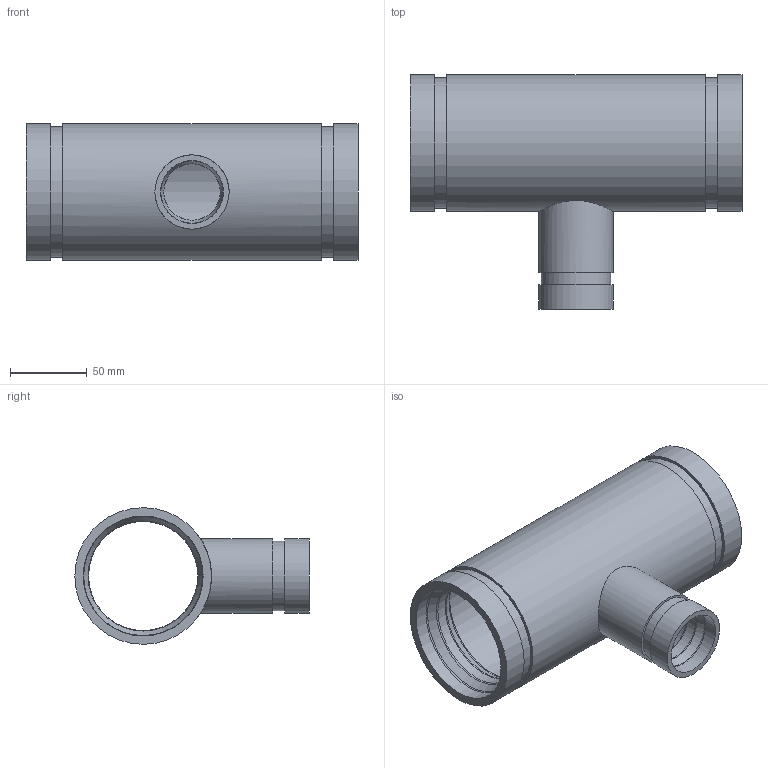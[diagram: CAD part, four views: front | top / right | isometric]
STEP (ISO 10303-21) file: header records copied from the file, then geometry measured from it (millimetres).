
FILE_DESCRIPTION(/* description */ ('VIC REDUCING TEE No 425H-SS','CAx-IF Rec.Pracs.---Representation and Presentation of Product Manufacturing Information (PMI)---4.0---2014-10-13'),/* implementation_level */ '2;1');
FILE_NAME(/* name */ 'C:\Users\kkamble\AppData\Roaming\Autodesk\ApplicationPlugins\Back Up\Victaulic_SS-OGS_Tee Reducing_Sched 40S_No 425H SS (OGS)\Victaulic_SS-OGS_Tee Reducing_Sched 40S_No 425H SS (OGS)_03.0x01.5 (80x40).stp',/* time_stamp */ '2020-08-27T17:19:40+06:00',/* author */ ('CORINNE GRAY'),/* organization */ ('Victaulic'),/* preprocessor_version */ 'ST-DEVELOPER v17.2',/* originating_system */ 'Autodesk Inventor 2019',/* authorisation */ '');
FILE_SCHEMA (('AP242_MANAGED_MODEL_BASED_3D_ENGINEERING_MIM_LF { 1 0 10303 442 1 1 4 }'));
Length unit declared in the file: inch
Products named in the file (1): 425H SS-03.0x01.5
Bounding box: 215.9 x 152.4 x 88.9 mm (x, y, z)
Volume: 352619.3 mm3; surface area: 135083.1 mm2
Topology: 1 solids, 1 shells, 43 faces, 134 edges, 100 vertices
Faces by surface type: cylinder 16, torus 12, plane 9, cone 6
Full cylindrical faces by diameter (mm): 36.703 x1, 40.894 x2, 45.085 x1, 48.26 x2, 71.018 x2, 77.978 x3, 84.938 x2, 88.9 x3
Entity records: 1919 total; most frequent: CARTESIAN_POINT 427, DIRECTION 352, ORIENTED_EDGE 268, AXIS2_PLACEMENT_3D 165, EDGE_CURVE 134, CIRCLE 108, VERTEX_POINT 100, EDGE_LOOP 54
